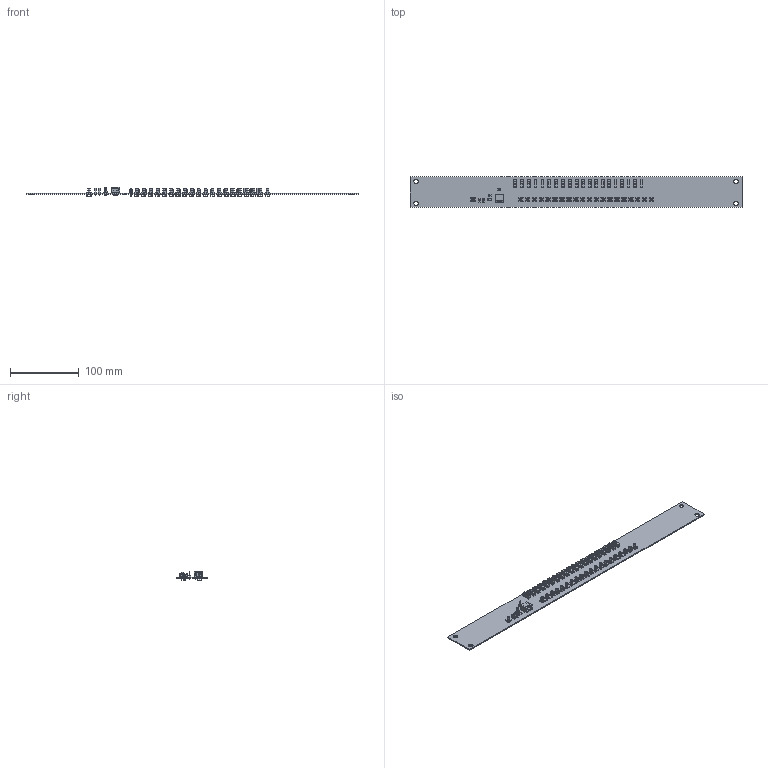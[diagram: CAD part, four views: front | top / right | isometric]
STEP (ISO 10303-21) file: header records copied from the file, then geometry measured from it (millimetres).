
FILE_DESCRIPTION(('KiCad electronic assembly'),'2;1');
FILE_NAME('HV_Safety_Loop.step','2025-12-03T09:05:38',('Pcbnew'),( 'Kicad'),'Open CASCADE STEP processor 7.7','KiCad to STEP converter' ,'Unknown');
FILE_SCHEMA(('AUTOMOTIVE_DESIGN { 1 0 10303 214 1 1 1 1 }'));
Length unit declared in the file: millimetre
Products named in the file (14): HV_Safety_Loop 1; EG1218; SOLID; SMB_JACK_0_ANGLE_CONSMB001-G; COMPOUND; PinHeader_1x02_P2.54mm_Vertical; R_2512_6332Metric; PhoenixContact_MSTBA_2,5_2-G-5,08_1x02_P5.08mm_Horizontal; PinSocket_1x02_P2.54mm_Vertical; HV_Safety_Loop PCB
Assembly tree (54 placements, depth 3):
  HV_Safety_Loop 1
    EG1218  x20
      SOLID
    SMB_JACK_0_ANGLE_CONSMB001-G  x21
      COMPOUND
    PinHeader_1x02_P2.54mm_Vertical  x2
      SOLID
    R_2512_6332Metric
      SOLID
    PhoenixContact_MSTBA_2,5_2-G-5,08_1x02_P5.08mm_Horizontal
      SOLID
    PinSocket_1x02_P2.54mm_Vertical  x2
      SOLID
    HV_Safety_Loop PCB
Bounding box: 482.6 x 44.45 x 13.7 mm (x, y, z)
Volume: 39668.8 mm3; surface area: 67510.6 mm2
Topology: 90 solids, 90 shells, 5417 faces, 14318 edges, 9088 vertices
Faces by surface type: plane 4314, cylinder 767, cone 252, revolution 42, torus 42
Full cylindrical faces by diameter (mm): 1 x68, 1.2 x21, 1.4 x2, 1.7 x84, 6.4 x4
Entity records: 46110 total; most frequent: CARTESIAN_POINT 9264, DIRECTION 6586, LINE 4260, VECTOR 4260, ORIENTED_EDGE 3424, PCURVE 3424, DEFINITIONAL_REPRESENTATION 3424, EDGE_CURVE 1712
